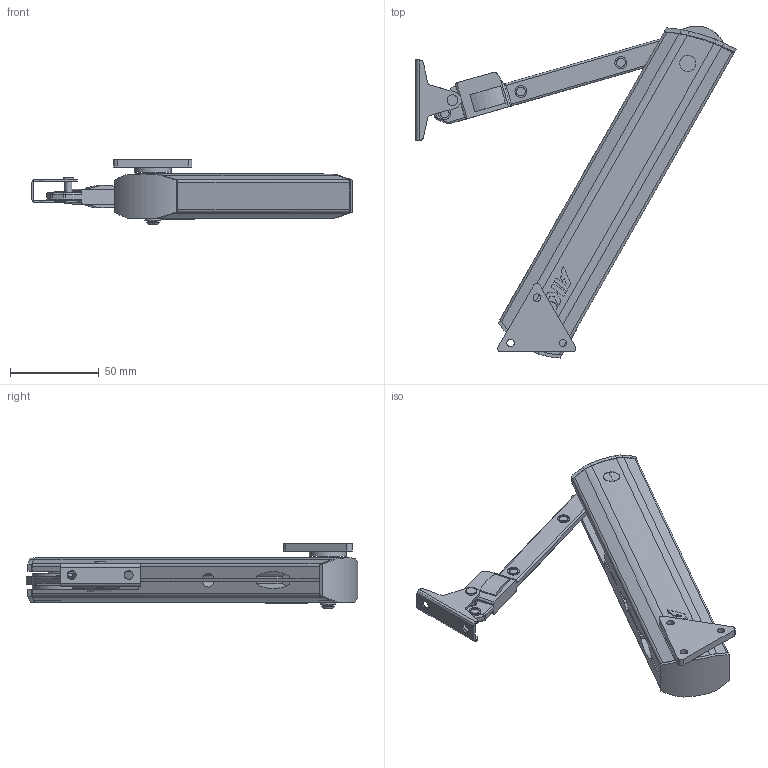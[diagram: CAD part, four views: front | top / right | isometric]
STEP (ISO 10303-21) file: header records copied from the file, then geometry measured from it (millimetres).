
FILE_DESCRIPTION(/* description */ (''),/* implementation_level */ '2;1');
FILE_NAME(/* name */ 'C:\Users\dmitruk\Documents\WORK\Подъемники\Подъемники\Подъемник KRONOS закрыто.stp',/* time_stamp */ '2022-08-03T15:13:42+03:00',/* author */ ('dmitruk'),/* organization */ (''),/* preprocessor_version */ 'ST-DEVELOPER v16.5',/* originating_system */ 'Autodesk Inventor 2017',/* authorisation */ '');
FILE_SCHEMA (('AUTOMOTIVE_DESIGN { 1 0 10303 214 3 1 1 }'));
Length unit declared in the file: millimetre
Products named in the file (9): Подъемник KRONOS; Крепление \X2\04440430
044104300434\X0\; Крепление \X2\0448043A
04300444\X0\; Рычаг; основание; Рычаг_1; Кольцо; Шайба; винт KRONOS
Assembly tree (8 placements, depth 3):
  Подъемник KRONOS
    Крепление \X2\04440430
044104300434\X0\
    Крепление \X2\0448043A
04300444\X0\
    Рычаг
      основание
      Рычаг_1
    Кольцо
    Шайба
    винт KRONOS
Bounding box: 180.03 x 186.63 x 36.1 mm (x, y, z)
Volume: 167989.7 mm3; surface area: 62601.3 mm2
Topology: 14 solids, 14 shells, 445 faces, 1139 edges, 746 vertices
Faces by surface type: plane 216, cylinder 194, bspline 23, torus 9, cone 3
Full cylindrical faces by diameter (mm): 3.6 x14, 4 x3, 4.2 x3, 4.935 x6, 5 x2, 5.5 x4, 5.863 x1, 6 x2, 6.687 x6, 7 x1, 8.817 x1, 8.911 x2, 9.056 x4, 10 x1, 11.313 x1, 20.977 x1, 35.18 x2
Entity records: 15101 total; most frequent: CARTESIAN_POINT 4790, ORIENTED_EDGE 2086, DIRECTION 2053, EDGE_CURVE 1037, AXIS2_PLACEMENT_3D 768, VERTEX_POINT 703, EDGE_LOOP 534, LINE 517
